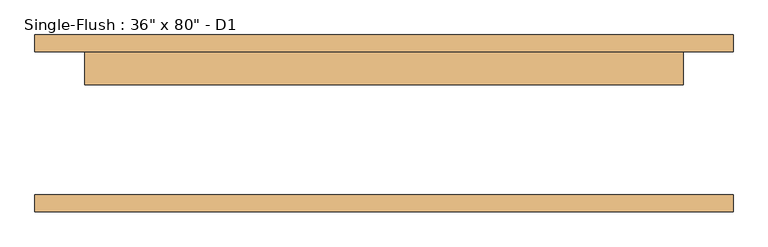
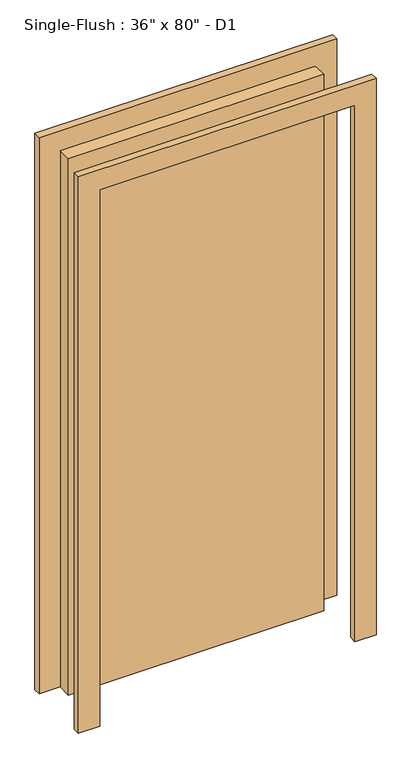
"""IFC4 building model written with IfcOpenShell, lengths in millimetres: door geometry."""

from ifc_helpers import new_model, si_unit, frame, origin, origin_with_axes, place, context, project, spatial, polyline, outline, extrude, source, transform, mapped, element, save


def door_dce19e30(model_context):
    return source(origin(), model_context, "Body", "SweptSolid", [
        extrude(outline(polyline([(2108.2, -533.4), (0.0, -533.4), (0.0, -457.2), (2032.0, -457.2), (2032.0, 457.2), (0.0, 457.2), (0.0, 533.4), (2108.2, 533.4), (2108.2, -533.4)])), frame((0.0, 109.5375, 0.0), z_axis=(0.0, 1.0, 0.0), x_axis=(0.0, 0.0, 1.0)), (0.0, 0.0, 1.0), 25.4),
        extrude(outline(polyline([(2108.2, 533.4), (2108.2, -533.4), (0.0, -533.4), (0.0, -457.2), (2032.0, -457.2), (2032.0, 457.2), (0.0, 457.2), (0.0, 533.4), (2108.2, 533.4)])), frame((0.0, -134.9375, 0.0), z_axis=(0.0, 1.0, 0.0), x_axis=(0.0, 0.0, 1.0)), (0.0, 0.0, 1.0), 25.4),
        extrude(outline(polyline([(457.2, 58.7375), (-457.2, 58.7375), (-457.2, 109.5375), (457.2, 109.5375), (457.2, 58.7375)])), origin_with_axes(), (0.0, 0.0, 1.0), 2032.0),
    ])


if __name__ == "__main__":
    model = new_model("IFC4")
    model_context = context("Model", 3, world=origin())
    ifc_project = project(units=[si_unit("LENGTHUNIT", "METRE", prefix="MILLI")], contexts=[model_context])
    site = spatial("IfcSite", under=ifc_project)
    building = spatial("IfcBuilding", under=site)
    placement = place(None, origin())
    door_shape = door_dce19e30(model_context)
    element("IfcDoor", 1, ObjectType="Single-Flush : 36\" x 80\" - D1", at=placement, inside=building, context=model_context, shape_type="MappedRepresentation", body=[
        mapped(door_shape, transform((0.0, 0.0, 0.0), x_axis=(1.0, 0.0, 0.0), y_axis=(0.0, 1.0, 0.0), z_axis=(0.0, 0.0, 1.0))),
    ])
    save(model, "model.ifc")
